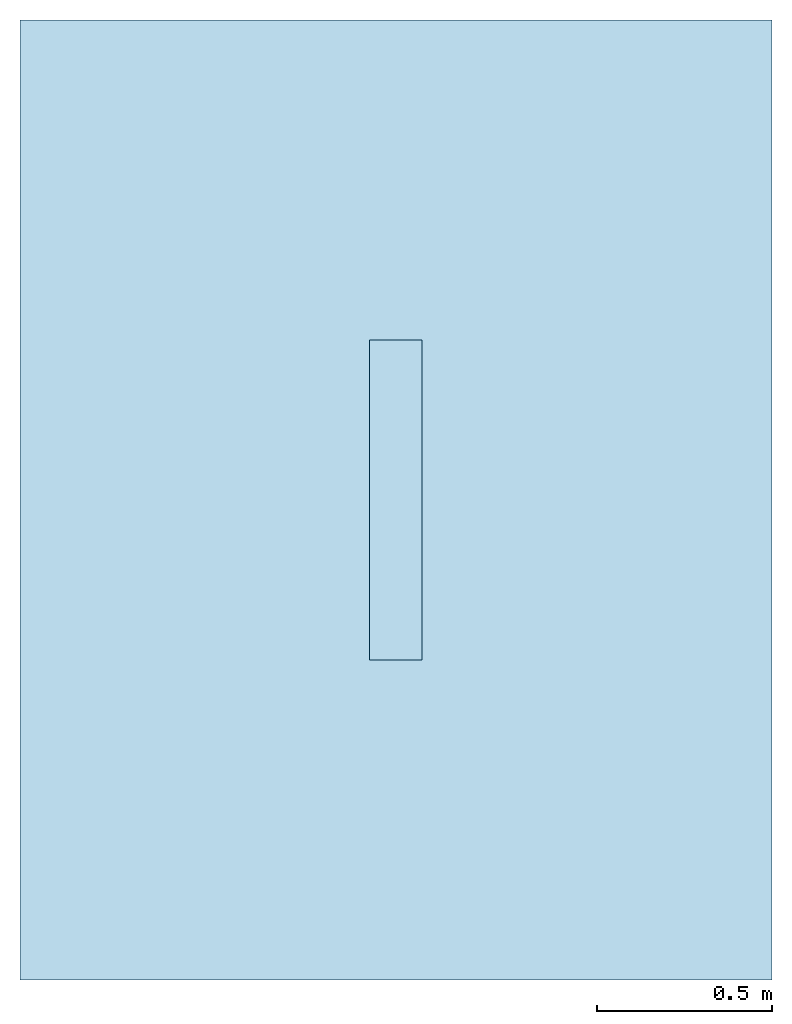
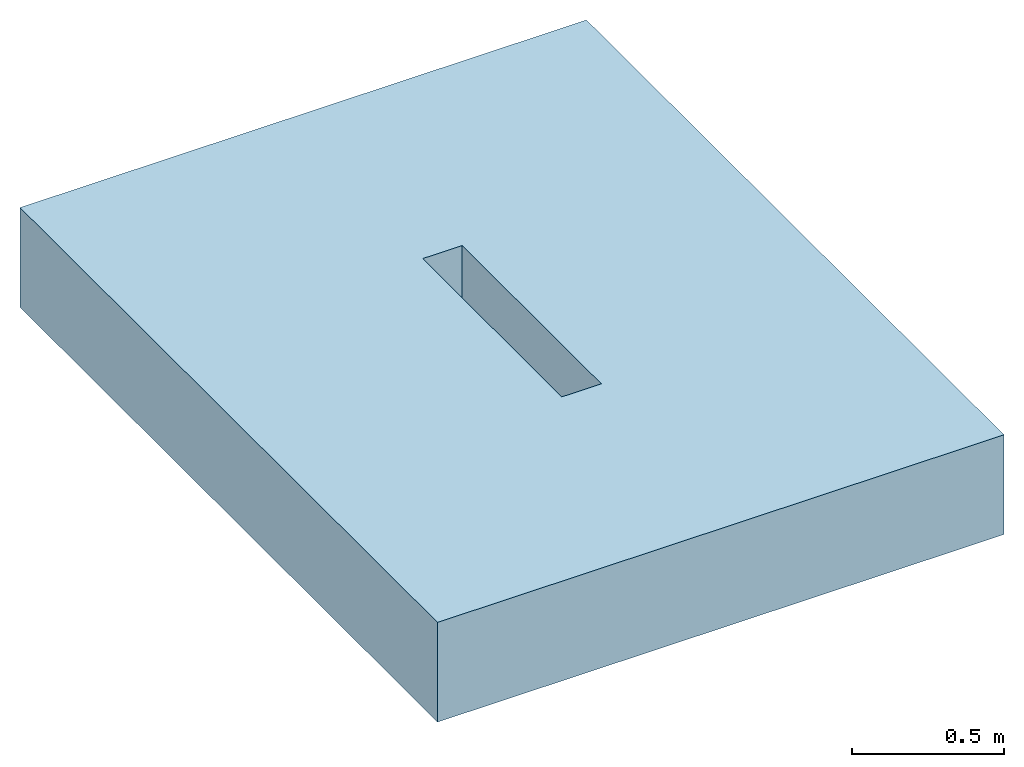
# One storey: 1 slab, 3 openings.
"""IFC2X3 building model written with IfcOpenShell, lengths in millimetres."""

from ifc_helpers import new_model, entity, si_unit, converted_unit, direction, frame, frame_2d, origin, origin_2d_with_axis, place, context, subcontext, project, spatial, polyline, rectangle, outline, extrude, material, layer, layer_set, layer_usage, element, save


model = new_model("IFC2X3")

# Units and contexts
model_context = context("Model", 3, precision=1e-06, world=origin(), true_north=direction((2.0, 6.12303176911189e-17, 1.0)))
context_of_model = context(None, 3, precision=1e-06, world=origin(), true_north=direction((2.0, 6.12303176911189e-17, 1.0)))
body_context = subcontext(model_context, "Body", "Model", "MODEL_VIEW")
ifc_project = project(units=[si_unit("LENGTHUNIT", "METRE", prefix="MILLI"), si_unit("AREAUNIT", "SQUARE_METRE", prefix="MILLI"), si_unit("VOLUMEUNIT", "CUBIC_METRE", prefix="MILLI"), converted_unit("PLANEANGLEUNIT", "DEGREE", entity("IfcRatioMeasure", 0.0174532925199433), si_unit("PLANEANGLEUNIT", "RADIAN"), dimensions=[0, 0, 0, 0, 0, 0, 0]), si_unit("TIMEUNIT", "SECOND")], contexts=[model_context, context_of_model])

# Site, building, storey
site_placement = place(None, origin())
site = spatial("IfcSite", under=ifc_project, at=site_placement, Name="Default", CompositionType="ELEMENT")
building_placement = place(site_placement, origin())
building = spatial("IfcBuilding", under=site, at=building_placement, CompositionType="ELEMENT")
storey_placement = place(building_placement, origin())
storey = spatial("IfcBuildingStorey", under=building, at=storey_placement, Name="Level 1", CompositionType="ELEMENT", Elevation=0.0)

# Slab, openings
ifc_material = material(Name="Earth")
ifc_layer = layer(ifc_material, 400.0)
ifc_layer_set = layer_set([ifc_layer], Name="Floor:Generic Floor - 400mm")
ifc_layer_usage = layer_usage(ifc_layer_set, "AXIS3", "POSITIVE", 0.0)
slab_placement = place(storey_placement, frame((-6757.99544306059, -11162.1166238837, -400.0)))
slab = element("IfcSlab", 1, at=slab_placement, inside=storey, material=ifc_layer_usage, Name="Floor:Generic Floor - 400mm", ObjectType="Floor:Generic Floor - 400mm", PredefinedType="FLOOR", context=body_context, shape_type="SweptSolid", body=[
    extrude(rectangle(XDim=2745.0, YDim=2150.0, at=frame_2d((0.0, 0.0), x_axis=(0.0, 1.0))), frame((1075.0, 1372.5, 400.0), z_axis=(0.0, 0.0, -1.0), x_axis=(-1.0, 0.0, 0.0)), (0.0, 0.0, 1.0), 400.0),
])
opening_1_placement = place(slab_placement, origin())
element("IfcOpeningElement", 2, at=opening_1_placement, cuts=slab, ObjectType="Opening", context=body_context, shape_type="SweptSolid", body=[
    extrude(outline(polyline([(-133.518702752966, -87.7019530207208), (26.4562972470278, -87.7019530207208), (26.4562972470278, -70.7019530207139), (26.8490923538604, -70.7019530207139), (26.8490923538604, 29.6156241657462), (63.5617749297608, 59.2980469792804), (33.0157590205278, 59.2980469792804), (63.8490923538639, 84.2980469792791), (-133.518702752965, 84.2980469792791), (-133.518702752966, -87.7019530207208)])), frame((1000.0, 1024.29804697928, -1466.48129724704), z_axis=(1.0, 0.0, 0.0), x_axis=(0.0, 0.0, 1.0)), (0.0, 0.0, 1.0), 149.999999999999),
])
opening_2_placement = place(slab_placement, origin())
element("IfcOpeningElement", 3, at=opening_2_placement, cuts=slab, ObjectType="Opening", context=body_context, shape_type="SweptSolid", body=[
    extrude(outline(polyline([(-243.499999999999, -75.0), (243.499999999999, -75.0), (250.0, 75.0), (-250.0, 75.0), (-243.499999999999, -75.0)])), frame((1075.0, 1165.0, 5865.0), z_axis=(0.0, 0.0, 1.0), x_axis=(0.0, -1.0, 0.0)), (0.0, 0.0, 1.0), 4.99999999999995),
])
opening_3_placement = place(slab_placement, origin())
element("IfcOpeningElement", 4, at=opening_3_placement, cuts=slab, ObjectType="Opening", context=body_context, shape_type="SweptSolid", body=[
    extrude(rectangle(XDim=149.999999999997, YDim=915.0, at=origin_2d_with_axis()), frame((1075.0, 1372.5, 45.0), z_axis=(0.0, 0.0, 1.0), x_axis=(-1.0, 0.0, 0.0)), (0.0, 0.0, 1.0), 355.0),
])

save(model, "model.ifc")
